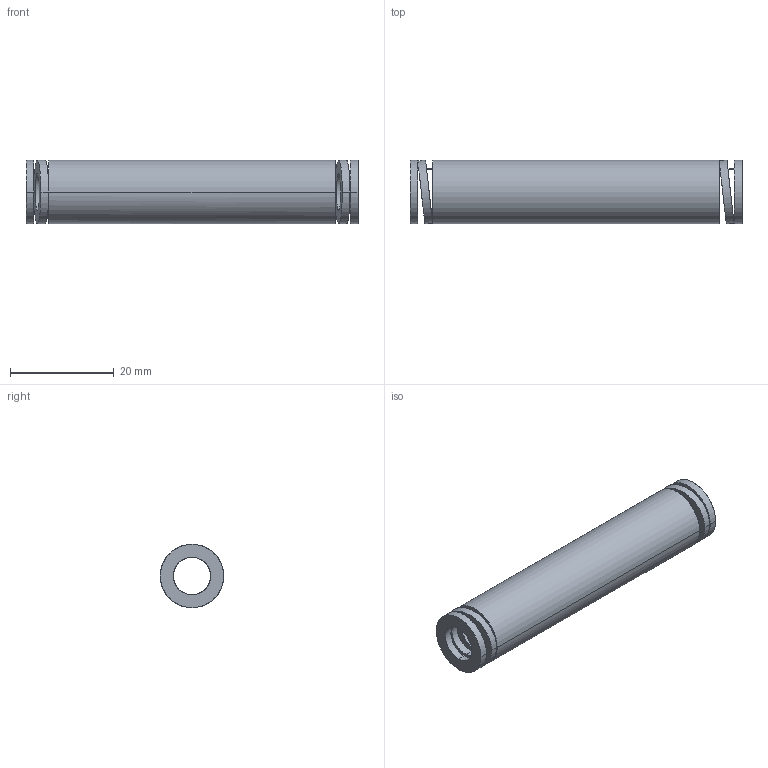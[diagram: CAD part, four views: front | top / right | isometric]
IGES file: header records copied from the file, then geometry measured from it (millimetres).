
Start section: START RECORD GO HERE.
Global section: file name: 392-B13-064.igs; native system: DASSAULT SYSTEMES CATIA V5 R20 - www.3ds.com; preprocessor: CATIA Version 5 Release 20 ; author: Utente; organization: NB04-ASUS; date: 20210812.144645; units: millimetre
Bounding box: 64 x 12.29 x 12.2 mm (x, y, z)
Surface area: 4492.1 mm2 (no closed solid volume)
Topology: 0 solids, 0 shells, 38 faces, 184 edges, 184 vertices
Faces by surface type: revolution 28, plane 10
